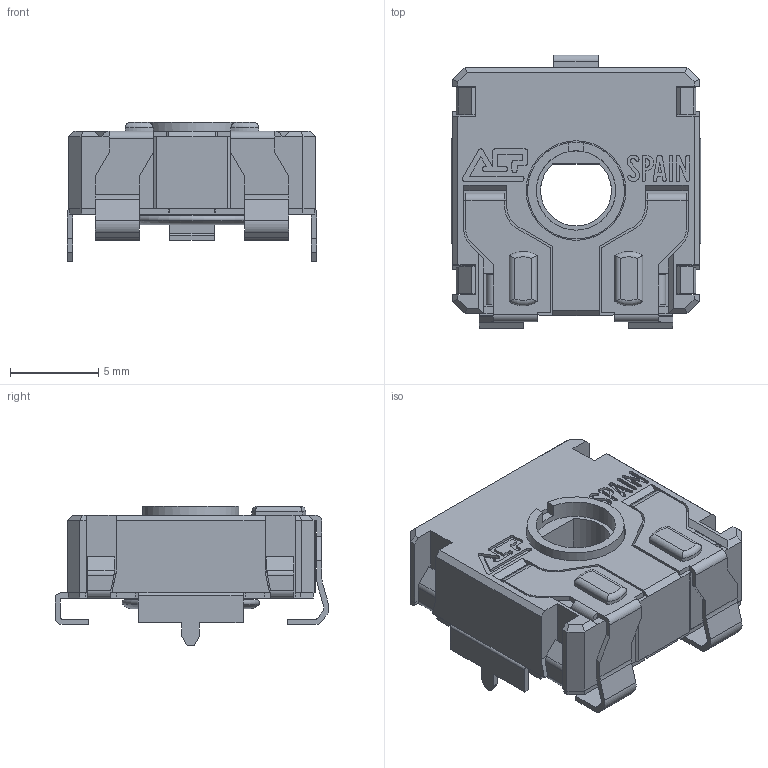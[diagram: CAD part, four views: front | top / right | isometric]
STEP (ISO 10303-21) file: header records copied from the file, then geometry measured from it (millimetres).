
FILE_DESCRIPTION(/* description */ (''),/* implementation_level */ '2;1');
FILE_NAME(/* name */ 'C:\Users\CEM\Desktop\ENVIAR\TRANSICION 3D CATALOGOS\CS14FVSMD CY.stp',/* time_stamp */ '2025-10-24T17:47:48+02:00',/* author */ ('CEM'),/* organization */ (''),/* preprocessor_version */ 'ST-DEVELOPER v17',/* originating_system */ 'Autodesk Inventor 2018',/* authorisation */ '');
FILE_SCHEMA (('AUTOMOTIVE_DESIGN { 1 0 10303 214 3 1 1 }'));
Length unit declared in the file: millimetre
Products named in the file (1): CS14FVSMD CY
Bounding box: 14.15 x 15.55 x 7.9 mm (x, y, z)
Volume: 556.2 mm3; surface area: 1649.7 mm2
Topology: 1 solids, 3 shells, 738 faces, 2076 edges, 1341 vertices
Faces by surface type: plane 555, cylinder 149, cone 15, bspline 10, torus 9
Full cylindrical faces by diameter (mm): 4.5 x1, 5.5 x1, 5.65 x1, 6.87 x1
Entity records: 24670 total; most frequent: CARTESIAN_POINT 4583, ORIENTED_EDGE 4152, DIRECTION 3872, EDGE_CURVE 2076, LINE 1628, VECTOR 1628, VERTEX_POINT 1341, AXIS2_PLACEMENT_3D 1122
